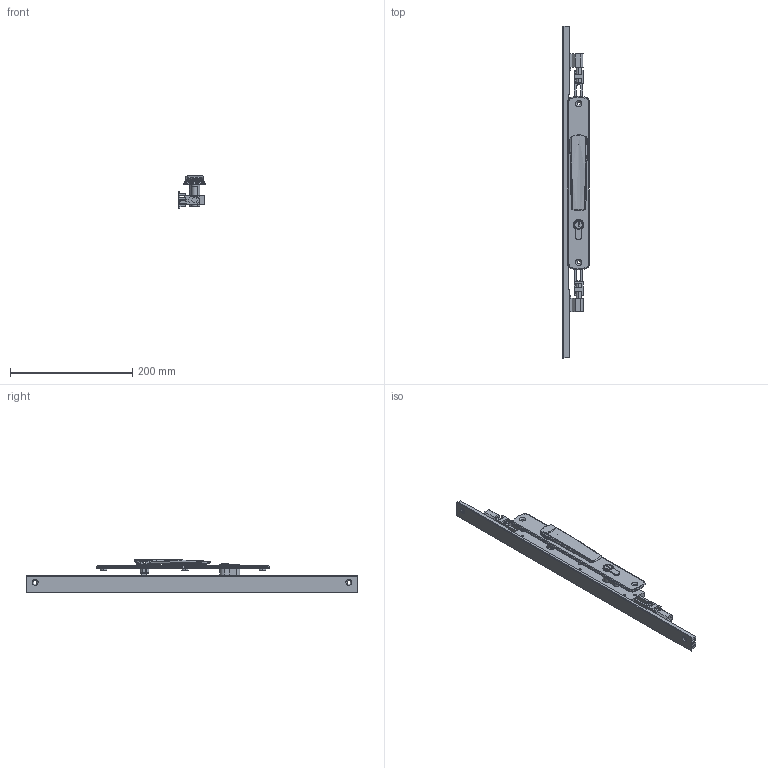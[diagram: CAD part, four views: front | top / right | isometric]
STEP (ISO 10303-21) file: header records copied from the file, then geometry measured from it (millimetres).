
FILE_DESCRIPTION (( 'STEP AP214' ), '1' );
FILE_NAME ('TPL-W-EU-620-L 06Nov2024.STEP', '2024-11-27T04:05:01', ( '' ), ( '' ), 'SwSTEP 2.0', 'SolidWorks 2023', '' );
FILE_SCHEMA (( 'AUTOMOTIVE_DESIGN' ));
Length unit declared in the file: millimetre
Products named in the file (19): Copy of TPGen2 handle keyed internal zinc - simplified^TPL-W-EU-120 04Nov2024_Vertical; Copy of LKC-585 Rotator body zinc^Copy of TPGen2 handle keyed internal zinc - simplified_TPL-W-EU-120 04Nov2024; Copy of TPLGen2 lock body keyed^Copy of TPLGen2 lock body keyed assembly_TPL-W-EU-120 04Nov2024; Copy of Copy of LKC-531 Lock twinpoint transmission rod wood system^TPL-W-EU-120 04Nov2024_Standard Range 2891.7mm; Copy of LKC-584 Pivot body zinc - simplified^Copy of TPGen2 handle keyed internal zinc - simplified_TPL-W-EU-120 04Nov2024; Copy of Copy of Copy of LKC-531 Lock twinpoint transmission rod wood system^TPL-W-EU-120 04Nov2024_Standard Range 2891.7mm; Copy of COV-112-C Cover C TPLGen2 Lock body^TPL-W-EU-120 04Nov2024; Copy of TPL-W-EU-130 04Nov2024^TPL-W-EU-120 04Nov2024_TPL-023 Left; Copy of Adapter CnE - simplfied^TPL-W-EU-120 04Nov2024_26mm backset; Copy of LKC-586 Spindle square 8mm with M4 hole^Copy of TPGen2 handle keyed internal zinc - simplified_TPL-W-EU-120 04Nov2024_25mm; Copy of LKC-505 Swing handle zinc - simplified^Copy of TPGen2 handle keyed internal zinc - simplified_TPL-W-EU-120 04Nov2024; Copy of Adapter DnF - simplfied^TPL-W-EU-120 04Nov2024_26mm backset; TPL-W-EU-620-L 06Nov2024; Copy of LKC-512 Escutcheon plate keyed internal 285mm long zinc - simplified^Copy of TPGen2 handle keyed internal zinc - simplified_TPL-W-EU-120 04Nov2024; Bolt.step; Copy of COV-112-A Cover A suit TPLGen2 standard range^TPL-W-EU-120 04Nov2024_2870mm; Copy of TPLGen2 lock body keyed assembly^TPL-W-EU-120 04Nov2024_Bolts extended; Copy (2) of COV-112-B Cover B suit TPLGen2 standard range^TPL-W-EU-120 04Nov2024_2870mm; Copy of TPLGen2 push rod - simplified^Copy of TPLGen2 lock body keyed assembly_TPL-W-EU-120 04Nov2024_Female thread M10
Assembly tree (16 placements, depth 3):
  TPL-W-EU-620-L 06Nov2024
    Copy of TPLGen2 lock body keyed assembly^TPL-W-EU-120 04Nov2024_Bolts extended
      Copy of TPLGen2 lock body keyed^Copy of TPLGen2 lock body keyed assembly_TPL-W-EU-120 04Nov2024
      Copy of TPLGen2 push rod - simplified^Copy of TPLGen2 lock body keyed assembly_TPL-W-EU-120 04Nov2024_Female thread M10  x2
    Copy of TPGen2 handle keyed internal zinc - simplified^TPL-W-EU-120 04Nov2024_Vertical
      Copy of LKC-512 Escutcheon plate keyed internal 285mm long zinc - simplified^Copy of TPGen2 handle keyed internal zinc - simplified_TPL-W-EU-120 04Nov2024
      Copy of LKC-505 Swing handle zinc - simplified^Copy of TPGen2 handle keyed internal zinc - simplified_TPL-W-EU-120 04Nov2024
      Copy of LKC-585 Rotator body zinc^Copy of TPGen2 handle keyed internal zinc - simplified_TPL-W-EU-120 04Nov2024
      Copy of LKC-586 Spindle square 8mm with M4 hole^Copy of TPGen2 handle keyed internal zinc - simplified_TPL-W-EU-120 04Nov2024_25mm
      Copy of LKC-584 Pivot body zinc - simplified^Copy of TPGen2 handle keyed internal zinc - simplified_TPL-W-EU-120 04Nov2024
    Copy of TPL-W-EU-130 04Nov2024^TPL-W-EU-120 04Nov2024_TPL-023 Left
    Copy of COV-112-C Cover C TPLGen2 Lock body^TPL-W-EU-120 04Nov2024
    Copy of Copy of LKC-531 Lock twinpoint transmission rod wood system^TPL-W-EU-120 04Nov2024_Standard Range 2891.7mm
    Copy of Copy of Copy of LKC-531 Lock twinpoint transmission rod wood system^TPL-W-EU-120 04Nov2024_Standard Range 2891.7mm
    Copy of Adapter CnE - simplfied^TPL-W-EU-120 04Nov2024_26mm backset
    Copy of Adapter DnF - simplfied^TPL-W-EU-120 04Nov2024_26mm backset
  Bolt.step
  Copy of COV-112-A Cover A suit TPLGen2 standard range^TPL-W-EU-120 04Nov2024_2870mm
  Copy (2) of COV-112-B Cover B suit TPLGen2 standard range^TPL-W-EU-120 04Nov2024_2870mm
Bounding box: 43.5 x 544 x 53.86 mm (x, y, z)
Volume: 284677 mm3; surface area: 139475 mm2
Topology: 14 solids, 14 shells, 919 faces, 2287 edges, 1426 vertices
Faces by surface type: plane 325, bspline 241, cylinder 228, cone 71, torus 46, sphere 8
Entity records: 33040 total; most frequent: CARTESIAN_POINT 13040, ORIENTED_EDGE 4382, DIRECTION 3618, EDGE_CURVE 2191, VERTEX_POINT 1366, AXIS2_PLACEMENT_3D 1330, EDGE_LOOP 983, LINE 958
